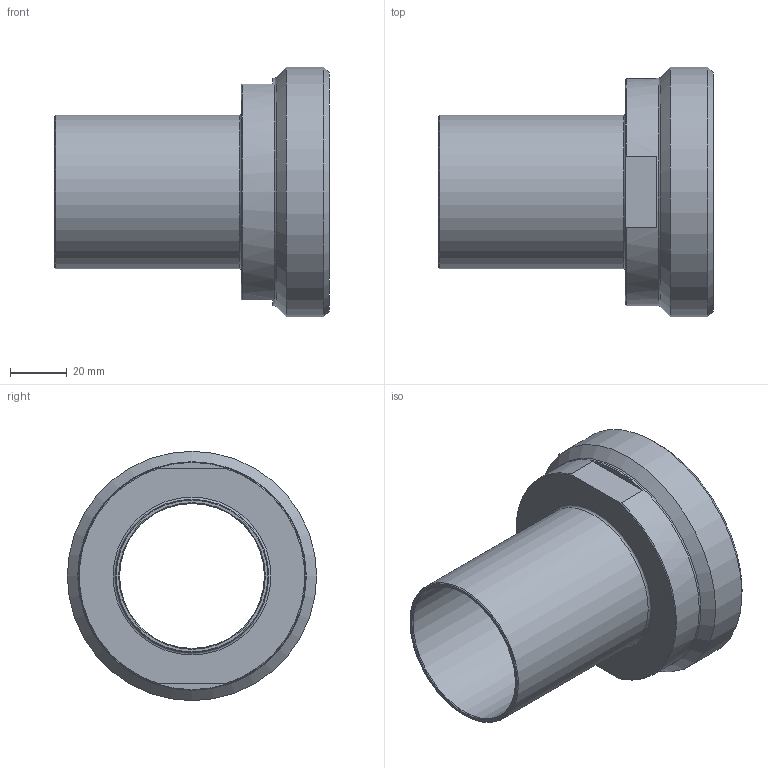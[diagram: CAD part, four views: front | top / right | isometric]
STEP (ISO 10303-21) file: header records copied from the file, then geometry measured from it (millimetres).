
FILE_DESCRIPTION(/* description */ (''),/* implementation_level */ '2;1');
FILE_NAME(/* name */ 'C:\Users\cad\Desktop\Zeichnungen neu von Ralph\3D_Kupplung_R666-PG\3D_R666-PG-54-DN80_17113693.stp',/* time_stamp */ '2021-06-23T16:00:22+02:00',/* author */ ('cad'),/* organization */ (''),/* preprocessor_version */ 'ST-DEVELOPER v18.1',/* originating_system */ 'Autodesk Inventor 2022',/* authorisation */ '');
FILE_SCHEMA (('AUTOMOTIVE_DESIGN { 1 0 10303 214 3 1 1 }'));
Length unit declared in the file: millimetre
Products named in the file (1): 3D_R666-PG-54-DN80_17113693
Bounding box: 96.7 x 87.8 x 87.8 mm (x, y, z)
Volume: 124961.5 mm3; surface area: 41743.4 mm2
Topology: 1 solids, 1 shells, 20 faces, 50 edges, 33 vertices
Faces by surface type: plane 7, cone 7, cylinder 4, torus 2
Full cylindrical faces by diameter (mm): 51 x1, 54 x1, 80 x1, 87.8 x1
Entity records: 656 total; most frequent: DIRECTION 117, CARTESIAN_POINT 112, ORIENTED_EDGE 100, EDGE_CURVE 50, AXIS2_PLACEMENT_3D 50, VERTEX_POINT 33, CIRCLE 29, EDGE_LOOP 23
